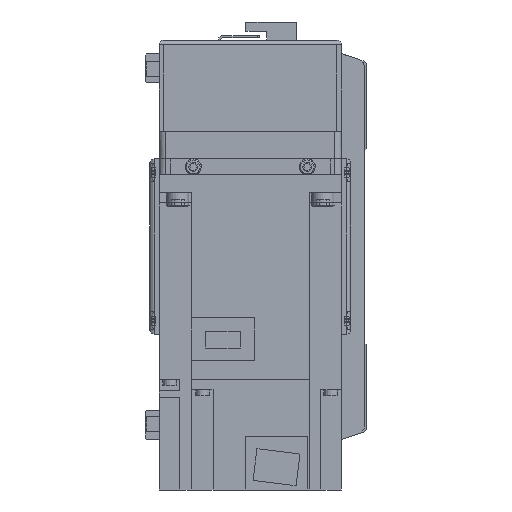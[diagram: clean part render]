
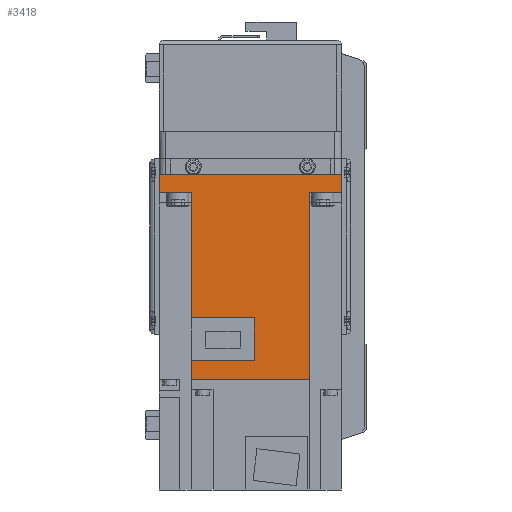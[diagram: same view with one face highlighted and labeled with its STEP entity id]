
A CAD part, left-side view. The second image highlights one B-rep face of the part: STEP entity #3418.
In plain terms, the highlighted planar face has unit normal (-1, 0, 0) as drawn and (1, 0, 0) by its records, which use the part's own axes.
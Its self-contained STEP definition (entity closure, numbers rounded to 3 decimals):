
#3418 = ADVANCED_FACE( '', ( #7176 ), #7177, .F. );
#7176 = FACE_OUTER_BOUND( '', #10980, .T. );
#7177 = PLANE( '', #10981 );
#10980 = EDGE_LOOP( '', ( #20595, #20596, #20597, #20598, #20599, #20600, #20601, #20602, #20603, #20604, #20605, #20606 ) );
#10981 = AXIS2_PLACEMENT_3D( '', #20607, #20608, #20609 );
#20595 = ORIENTED_EDGE( '', *, *, #24462, .F. );
#20596 = ORIENTED_EDGE( '', *, *, #22868, .F. );
#20597 = ORIENTED_EDGE( '', *, *, #24983, .F. );
#20598 = ORIENTED_EDGE( '', *, *, #23709, .T. );
#20599 = ORIENTED_EDGE( '', *, *, #23355, .F. );
#20600 = ORIENTED_EDGE( '', *, *, #24435, .T. );
#20601 = ORIENTED_EDGE( '', *, *, #24624, .T. );
#20602 = ORIENTED_EDGE( '', *, *, #24305, .F. );
#20603 = ORIENTED_EDGE( '', *, *, #24269, .F. );
#20604 = ORIENTED_EDGE( '', *, *, #22869, .F. );
#20605 = ORIENTED_EDGE( '', *, *, #24188, .F. );
#20606 = ORIENTED_EDGE( '', *, *, #22061, .F. );
#20607 = CARTESIAN_POINT( '', ( 40., 89.8, 40. ) );
#20608 = DIRECTION( '', ( -1., 0., 0. ) );
#20609 = DIRECTION( '', ( 0., 0., 1. ) );
#22061 = EDGE_CURVE( '', #26578, #26579, #26580, .T. );
#22868 = EDGE_CURVE( '', #27892, #26484, #27894, .T. );
#22869 = EDGE_CURVE( '', #26485, #27895, #27896, .T. );
#23355 = EDGE_CURVE( '', #28650, #28652, #28653, .T. );
#23709 = EDGE_CURVE( '', #29152, #28652, #29153, .T. );
#24188 = EDGE_CURVE( '', #26579, #26485, #29803, .T. );
#24269 = EDGE_CURVE( '', #27895, #29907, #29908, .T. );
#24305 = EDGE_CURVE( '', #29907, #29950, #29951, .T. );
#24435 = EDGE_CURVE( '', #28650, #30112, #30114, .T. );
#24462 = EDGE_CURVE( '', #26484, #26578, #30149, .T. );
#24624 = EDGE_CURVE( '', #30112, #29950, #30350, .T. );
#24983 = EDGE_CURVE( '', #29152, #27892, #30739, .T. );
#26484 = VERTEX_POINT( '', #32890 );
#26485 = VERTEX_POINT( '', #32891 );
#26578 = VERTEX_POINT( '', #33026 );
#26579 = VERTEX_POINT( '', #33027 );
#26580 = LINE( '', #33028, #33029 );
#27892 = VERTEX_POINT( '', #35056 );
#27894 = LINE( '', #35059, #35060 );
#27895 = VERTEX_POINT( '', #35061 );
#27896 = LINE( '', #35062, #35063 );
#28650 = VERTEX_POINT( '', #36546 );
#28652 = VERTEX_POINT( '', #36549 );
#28653 = LINE( '', #36550, #36551 );
#29152 = VERTEX_POINT( '', #37402 );
#29153 = LINE( '', #37403, #37404 );
#29803 = LINE( '', #38350, #38351 );
#29907 = VERTEX_POINT( '', #38525 );
#29908 = LINE( '', #38526, #38527 );
#29950 = VERTEX_POINT( '', #38585 );
#29951 = LINE( '', #38586, #38587 );
#30112 = VERTEX_POINT( '', #38942 );
#30114 = LINE( '', #38945, #38946 );
#30149 = LINE( '', #38989, #38990 );
#30350 = LINE( '', #39271, #39272 );
#30739 = LINE( '', #39817, #39818 );
#32890 = CARTESIAN_POINT( '', ( 40., 81.4, -25.95 ) );
#32891 = CARTESIAN_POINT( '', ( 40., 62.8, -25.95 ) );
#33026 = CARTESIAN_POINT( '', ( 40., 81.4, 1.8 ) );
#33027 = CARTESIAN_POINT( '', ( 40., 62.8, 1.8 ) );
#33028 = CARTESIAN_POINT( '', ( 40., 81.4, 1.8 ) );
#33029 = VECTOR( '', #41120, 1000. );
#35056 = CARTESIAN_POINT( '', ( 40., 89.8, -25.95 ) );
#35059 = CARTESIAN_POINT( '', ( 40., 158., -25.95 ) );
#35060 = VECTOR( '', #42092, 1000. );
#35061 = CARTESIAN_POINT( '', ( 40., 8., -25.95 ) );
#35062 = CARTESIAN_POINT( '', ( 40., 158., -25.95 ) );
#35063 = VECTOR( '', #42093, 1000. );
#36546 = CARTESIAN_POINT( '', ( 40., 8., 40. ) );
#36549 = CARTESIAN_POINT( '', ( 40., 8., 25.95 ) );
#36550 = CARTESIAN_POINT( '', ( 40., 8., 40. ) );
#36551 = VECTOR( '', #42685, 1000. );
#37402 = CARTESIAN_POINT( '', ( 40., 89.8, 25.95 ) );
#37403 = CARTESIAN_POINT( '', ( 40., 158., 25.95 ) );
#37404 = VECTOR( '', #43105, 1000. );
#38350 = CARTESIAN_POINT( '', ( 40., 62.8, 1.8 ) );
#38351 = VECTOR( '', #43641, 1000. );
#38525 = CARTESIAN_POINT( '', ( 40., 8., -40. ) );
#38526 = CARTESIAN_POINT( '', ( 40., 8., 40. ) );
#38527 = VECTOR( '', #43725, 1000. );
#38585 = CARTESIAN_POINT( '', ( 40., 0., -40. ) );
#38586 = CARTESIAN_POINT( '', ( 40., 89.8, -40. ) );
#38587 = VECTOR( '', #43757, 1000. );
#38942 = CARTESIAN_POINT( '', ( 40., 0., 40. ) );
#38945 = CARTESIAN_POINT( '', ( 40., 89.8, 40. ) );
#38946 = VECTOR( '', #43897, 1000. );
#38989 = CARTESIAN_POINT( '', ( 40., 81.4, -26. ) );
#38990 = VECTOR( '', #43921, 1000. );
#39271 = CARTESIAN_POINT( '', ( 40., 0., 40. ) );
#39272 = VECTOR( '', #44074, 1000. );
#39817 = CARTESIAN_POINT( '', ( 40., 89.8, 40. ) );
#39818 = VECTOR( '', #44298, 1000. );
#41120 = DIRECTION( '', ( 0., -1., 0. ) );
#42092 = DIRECTION( '', ( 0., -1., 0. ) );
#42093 = DIRECTION( '', ( 0., -1., 0. ) );
#42685 = DIRECTION( '', ( 0., 0., -1. ) );
#43105 = DIRECTION( '', ( 0., -1., 0. ) );
#43641 = DIRECTION( '', ( 0., 0., -1. ) );
#43725 = DIRECTION( '', ( 0., 0., -1. ) );
#43757 = DIRECTION( '', ( 0., -1., 0. ) );
#43897 = DIRECTION( '', ( 0., -1., 0. ) );
#43921 = DIRECTION( '', ( 0., 0., 1. ) );
#44074 = DIRECTION( '', ( 0., 0., -1. ) );
#44298 = DIRECTION( '', ( 0., 0., -1. ) );
